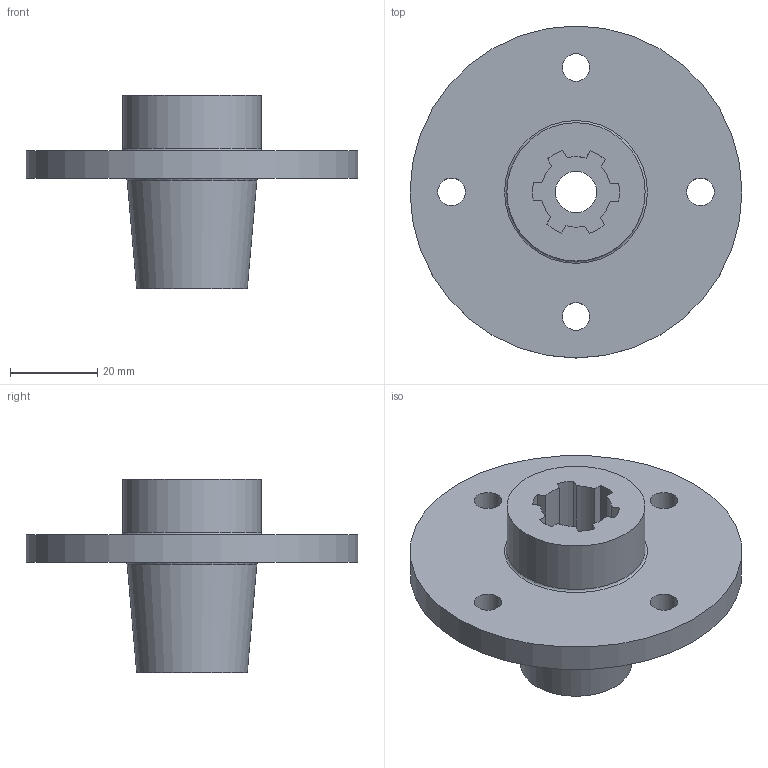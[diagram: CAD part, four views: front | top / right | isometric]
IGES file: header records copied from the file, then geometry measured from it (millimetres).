
Global section: file name: No Iges File Name specified; native system: AutoDesk Inventor R6.0; preprocessor: AutoDesk Inventor Iges Exporter R6.0; author: No Author specified; organization: No Organization specified; date: 20060129.213110; units: inch
Bounding box: 76.2 x 76.2 x 44.45 mm (x, y, z)
Surface area: 16725.9 mm2 (no closed solid volume)
Topology: 0 solids, 0 shells, 44 faces, 219 edges, 209 vertices
Faces by surface type: plane 20, bspline 14, revolution 10
